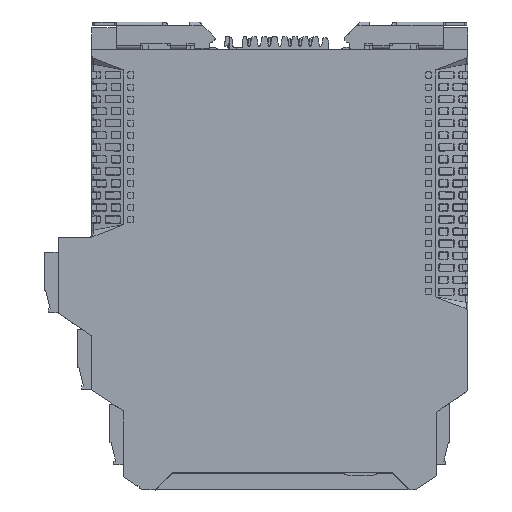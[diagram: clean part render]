
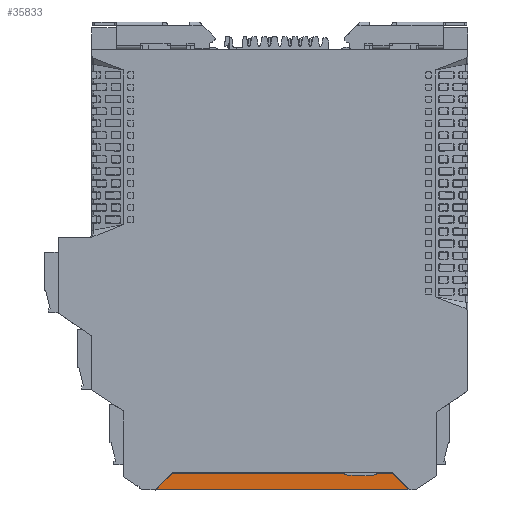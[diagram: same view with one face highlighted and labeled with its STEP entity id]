
A CAD part, front view. The second image highlights one B-rep face of the part: STEP entity #35833.
In plain terms, the highlighted planar face has unit normal (0, -1, -0.009).
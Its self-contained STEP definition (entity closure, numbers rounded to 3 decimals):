
#31158=CARTESIAN_POINT('',(83.309,-0.16,-110.321));
#31159=VERTEX_POINT('',#31158);
#31166=CARTESIAN_POINT('',(87.08,-0.127,-114.092));
#31167=VERTEX_POINT('',#31166);
#31168=CARTESIAN_POINT('',(83.309,-0.16,-110.321));
#31169=DIRECTION('',(0.707,0.006,-0.707));
#31170=VECTOR('',#31169,5.333);
#31171=LINE('',#31168,#31170);
#31172=EDGE_CURVE('',#31159,#31167,#31171,.T.);
#31205=CARTESIAN_POINT('',(79.309,-0.16,-110.321));
#31206=VERTEX_POINT('',#31205);
#31213=CARTESIAN_POINT('',(79.309,-0.16,-110.321));
#31214=DIRECTION('',(1.0,0.0,0.0));
#31215=VECTOR('',#31214,4.);
#31216=LINE('',#31213,#31215);
#31217=EDGE_CURVE('',#31206,#31159,#31216,.T.);
#31229=CARTESIAN_POINT('',(71.309,-0.16,-110.321));
#31230=VERTEX_POINT('',#31229);
#31245=CARTESIAN_POINT('',(28.429,-0.16,-110.321));
#31246=VERTEX_POINT('',#31245);
#31253=CARTESIAN_POINT('',(28.429,-0.16,-110.321));
#31254=DIRECTION('',(1.0,0.0,0.0));
#31255=VECTOR('',#31254,42.88);
#31256=LINE('',#31253,#31255);
#31257=EDGE_CURVE('',#31246,#31230,#31256,.T.);
#31364=CARTESIAN_POINT('',(24.702,-0.127,-114.049));
#31365=VERTEX_POINT('',#31364);
#31372=CARTESIAN_POINT('',(24.702,-0.127,-114.049));
#31373=DIRECTION('',(0.707,-0.006,0.707));
#31374=VECTOR('',#31373,5.272);
#31375=LINE('',#31372,#31374);
#31376=EDGE_CURVE('',#31365,#31246,#31375,.T.);
#31410=CARTESIAN_POINT('',(24.644,-0.126,-114.176));
#31411=VERTEX_POINT('',#31410);
#31418=CARTESIAN_POINT('',(24.843,-0.126,-114.19));
#31419=DIRECTION('',(0.,1.,0.009));
#31420=DIRECTION('',(-0.707,-0.006,0.707));
#31421=AXIS2_PLACEMENT_3D('',#31418,#31419,#31420);
#31422=CIRCLE('',#31421,0.2);
#31423=EDGE_CURVE('',#31411,#31365,#31422,.T.);
#31442=CARTESIAN_POINT('',(24.619,-0.123,-114.521));
#31443=VERTEX_POINT('',#31442);
#31450=CARTESIAN_POINT('',(24.644,-0.126,-114.176));
#31451=DIRECTION('',(-0.07,0.009,-0.998));
#31452=VECTOR('',#31451,0.346);
#31453=LINE('',#31450,#31452);
#31454=EDGE_CURVE('',#31411,#31443,#31453,.T.);
#35576=CARTESIAN_POINT('',(87.08,-0.123,-114.521));
#35577=VERTEX_POINT('',#35576);
#35584=CARTESIAN_POINT('',(87.08,-0.123,-114.521));
#35585=DIRECTION('',(-1.0,0.0,0.0));
#35586=VECTOR('',#35585,62.46);
#35587=LINE('',#35584,#35586);
#35588=EDGE_CURVE('',#35577,#31443,#35587,.T.);
#35790=CARTESIAN_POINT('',(23.783,-0.16,-110.321));
#35791=DIRECTION('',(0.0,1.,0.009));
#35792=DIRECTION('',(0.0,-0.009,1.));
#35793=AXIS2_PLACEMENT_3D('',#35790,#35791,#35792);
#35794=PLANE('',#35793);
#35795=ORIENTED_EDGE('',*,*,#31454,.T.);
#35796=ORIENTED_EDGE('',*,*,#35588,.F.);
#35797=CARTESIAN_POINT('',(87.08,-0.127,-114.092));
#35798=DIRECTION('',(0.0,0.009,-1.));
#35799=VECTOR('',#35798,0.429);
#35800=LINE('',#35797,#35799);
#35801=EDGE_CURVE('',#31167,#35577,#35800,.T.);
#35802=ORIENTED_EDGE('',*,*,#35801,.F.);
#35803=ORIENTED_EDGE('',*,*,#31172,.F.);
#35804=ORIENTED_EDGE('',*,*,#31217,.F.);
#35805=CARTESIAN_POINT('',(79.309,-0.157,-110.721));
#35806=VERTEX_POINT('',#35805);
#35807=CARTESIAN_POINT('',(79.309,-0.157,-110.721));
#35808=DIRECTION('',(0.0,-0.009,1.));
#35809=VECTOR('',#35808,0.4);
#35810=LINE('',#35807,#35809);
#35811=EDGE_CURVE('',#35806,#31206,#35810,.T.);
#35812=ORIENTED_EDGE('',*,*,#35811,.F.);
#35813=CARTESIAN_POINT('',(71.309,-0.157,-110.721));
#35814=VERTEX_POINT('',#35813);
#35815=CARTESIAN_POINT('',(75.309,-0.388,-84.207));
#35816=DIRECTION('',(0.,-1.,-0.009));
#35817=DIRECTION('',(0.149,0.009,-0.989));
#35818=AXIS2_PLACEMENT_3D('',#35815,#35816,#35817);
#35819=CIRCLE('',#35818,26.816);
#35820=EDGE_CURVE('',#35814,#35806,#35819,.T.);
#35821=ORIENTED_EDGE('',*,*,#35820,.F.);
#35822=CARTESIAN_POINT('',(71.309,-0.16,-110.321));
#35823=DIRECTION('',(0.0,0.009,-1.));
#35824=VECTOR('',#35823,0.4);
#35825=LINE('',#35822,#35824);
#35826=EDGE_CURVE('',#31230,#35814,#35825,.T.);
#35827=ORIENTED_EDGE('',*,*,#35826,.F.);
#35828=ORIENTED_EDGE('',*,*,#31257,.F.);
#35829=ORIENTED_EDGE('',*,*,#31376,.F.);
#35830=ORIENTED_EDGE('',*,*,#31423,.F.);
#35831=EDGE_LOOP('',(#35795,#35796,#35802,#35803,#35804,#35812,#35821,#35827,#35828,#35829,#35830));
#35832=FACE_OUTER_BOUND('',#35831,.T.);
#35833=ADVANCED_FACE('',(#35832),#35794,.F.);
